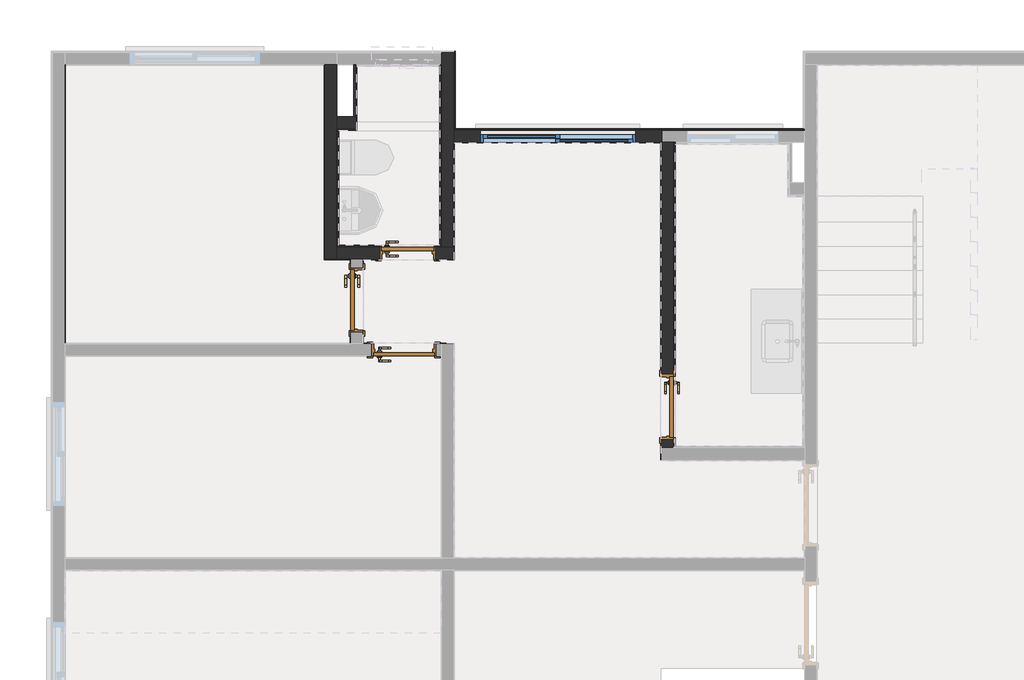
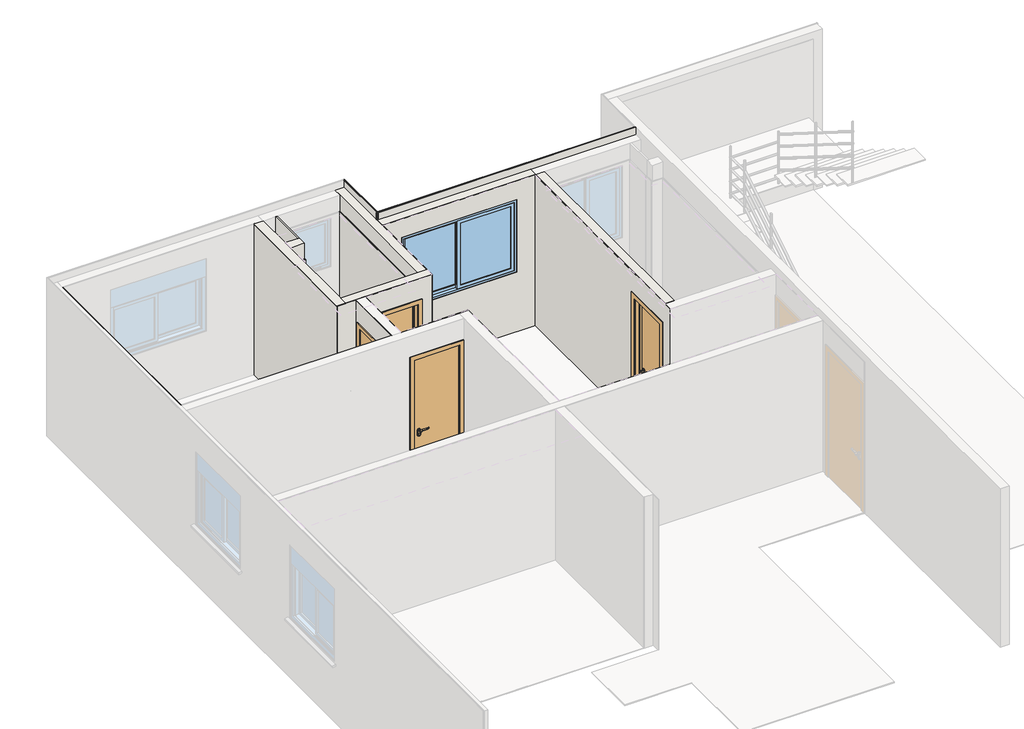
# One storey, part 5 of 11: 27 walls, 4 doors, 1 window.
"""IFC4 building model written with IfcOpenShell, lengths in millimetres."""

from ifc_helpers import new_model, si_unit, frame, origin, origin_with_axes, place, context, project, spatial, polyline, outline, extrude, faceted_brep, transform, mapped, element, save
from components import porta_de_madeira_interna_60_x_210_porta_de_madeira_interna_6d4bee1b, porta_de_madeira_interna_70_x_210_porta_de_madeira_interna_d0067c94, porta_de_madeira_interna_70_x_210_porta_de_madeira_interna_f307109d, window_180x120_e659ab7e

model = new_model("IFC4")

# Units and contexts
model_context = context("Model", 3, world=origin())
ifc_project = project(units=[si_unit("LENGTHUNIT", "METRE", prefix="MILLI")], contexts=[model_context])

# Site, building, storey
site = spatial("IfcSite", under=ifc_project)
building = spatial("IfcBuilding", under=site)
storey = spatial("IfcBuildingStorey", under=building, Name="Térreo", Elevation=0.0)

# Doors
placement = place(None, origin())
porta_de_madeira_interna_60_x_210_porta_de_madeira_interna_shape = porta_de_madeira_interna_60_x_210_porta_de_madeira_interna_6d4bee1b(model_context)
element("IfcDoor", 1, ObjectType="Porta de Madeira Interna 60 x 210 : Porta de Madeira Interna 60 x 210", at=placement, inside=storey, context=model_context, shape_type="MappedRepresentation", body=[
    mapped(porta_de_madeira_interna_60_x_210_porta_de_madeira_interna_shape, transform((4137.9990083, 10003.1988664, 0.0), x_axis=(1.0, 0.0, 0.0), y_axis=(0.0, 1.0, 0.0), z_axis=(0.0, 0.0, 1.0))),
])
porta_de_madeira_interna_70_x_210_porta_de_madeira_interna_shape = porta_de_madeira_interna_70_x_210_porta_de_madeira_interna_d0067c94(model_context)
element("IfcDoor", 2, ObjectType="Porta de Madeira Interna 70 x 210 : Porta de Madeira Interna 70 x 210", at=placement, inside=storey, context=model_context, shape_type="MappedRepresentation", body=[
    mapped(porta_de_madeira_interna_70_x_210_porta_de_madeira_interna_shape, transform((7146.1736861, 8221.3603139, 0.0), x_axis=(0.0, -1.0, 0.0), y_axis=(1.0, 0.0, 0.0), z_axis=(0.0, 0.0, 1.0))),
])
porta_de_madeira_interna_70_x_210_porta_de_madeira_interna_2_shape = porta_de_madeira_interna_70_x_210_porta_de_madeira_interna_f307109d(model_context)
element("IfcDoor", 3, ObjectType="Porta de Madeira Interna 70 x 210 : Porta de Madeira Interna 70 x 210", at=placement, inside=storey, context=model_context, shape_type="MappedRepresentation", body=[
    mapped(porta_de_madeira_interna_70_x_210_porta_de_madeira_interna_2_shape, transform((3546.8230641, 9457.0248023, 0.0), x_axis=(0.0, -1.0, 0.0), y_axis=(1.0, 0.0, 0.0), z_axis=(0.0, 0.0, 1.0))),
])
element("IfcDoor", 4, ObjectType="Porta de Madeira Interna 70 x 210 : Porta de Madeira Interna 70 x 210", at=placement, inside=storey, context=model_context, shape_type="MappedRepresentation", body=[
    mapped(porta_de_madeira_interna_70_x_210_porta_de_madeira_interna_2_shape, transform((4092.999908, 8876.8494803, 0.0), x_axis=(1.0, 0.0, 0.0), y_axis=(0.0, 1.0, 0.0), z_axis=(0.0, 0.0, 1.0))),
])

# Walls
element("IfcWall", 5, ObjectType="Mureta box", at=placement, inside=storey, context=model_context, shape_type="SweptSolid", body=[
    extrude(outline(polyline([(3529.99398, 11505.0235306), (4509.99398, 11505.0235306), (4509.99398, 11495.0235306), (3529.99398, 11495.0235306), (3529.99398, 11505.0235306)])), origin_with_axes(), (0.0, 0.0, 1.0), 90.0),
    extrude(outline(polyline([(4509.99398, 11425.0235306), (3529.99398, 11425.0235306), (3529.99398, 11435.0235306), (4509.99398, 11435.0235306), (4509.99398, 11425.0235306)])), origin_with_axes(), (0.0, 0.0, 1.0), 90.0),
    extrude(outline(polyline([(3529.99398, 11435.0235306), (3529.99398, 11495.0235306), (4509.99398, 11495.0235306), (4509.99398, 11435.0235306), (3529.99398, 11435.0235306)])), origin_with_axes(), (0.0, 0.0, 1.0), 90.0),
    extrude(outline(polyline([(3529.99398, 11505.0235306), (4509.99398, 11505.0235306), (4509.99398, 11495.0235306), (3529.99398, 11495.0235306), (3529.99398, 11505.0235306)])), origin_with_axes(), (0.0, 0.0, 1.0), 90.0),
    extrude(outline(polyline([(4509.99398, 11425.0235306), (3529.99398, 11425.0235306), (3529.99398, 11435.0235306), (4509.99398, 11435.0235306), (4509.99398, 11425.0235306)])), origin_with_axes(), (0.0, 0.0, 1.0), 90.0),
    extrude(outline(polyline([(3529.99398, 11435.0235306), (3529.99398, 11495.0235306), (4509.99398, 11495.0235306), (4509.99398, 11435.0235306), (3529.99398, 11435.0235306)])), origin_with_axes(), (0.0, 0.0, 1.0), 90.0),
])
element("IfcWall", 6, ObjectType="Alvenaria Estrutural", at=placement, inside=storey, context=model_context, shape_type="Brep", body=[
    faceted_brep([(3319.9977061, 12180.0252435, 0.0), (3319.9977061, 12180.0252435, 2510.0), (3319.9977061, 11580.0235306, 2510.0), (3319.9977061, 11440.0235306, 2510.0), (3319.9977061, 10070.0238664, 2510.0), (3319.9977061, 9930.025593, 2510.0), (3319.9977061, 9930.025593, 0.0), (3319.9977061, 10070.0238664, 0.0), (3319.9977061, 10090.0238664, 0.0), (3319.9977061, 11420.0235306, 0.0), (3319.9977061, 11440.0235306, 0.0), (3319.9977061, 11580.0235306, 0.0), (3179.9977061, 12174.0253822, 0.0), (3179.9977061, 12180.0252435, 0.0), (3179.9977061, 9930.025593, 0.0), (3179.9977061, 9930.025593, 2510.0), (3179.9977061, 12174.0253822, 2510.0), (3179.9977061, 12180.0252435, 2510.0)], [[[0, 1, 2, 3, 4, 5, 6, 7, 8, 9, 10, 11]], [[12, 13, 0, 11, 10, 9, 8, 7, 6, 14]], [[15, 14, 6, 5]], [[16, 15, 5, 4, 3, 2, 1, 17]], [[13, 12, 14, 15, 16, 17]], [[13, 17, 1, 0]]]),
    faceted_brep([(3179.9977061, 12180.0252435, 0.0), (3179.9977061, 12174.0253822, 0.0), (3179.9977061, 9930.025593, 0.0), (3179.9977061, 9930.025593, 2510.0), (3179.9977061, 12174.0253822, 2510.0), (3179.9977061, 12180.0252435, 2510.0), (3319.9977061, 12180.0252435, 0.0), (3319.9977061, 12180.0252435, 2510.0), (3319.9977061, 11580.0235306, 2510.0), (3319.9977061, 11440.0235306, 2510.0), (3319.9977061, 10070.0238664, 2510.0), (3319.9977061, 9930.025593, 2510.0), (3319.9977061, 9930.025593, 0.0), (3319.9977061, 10070.0238664, 0.0), (3319.9977061, 10090.0238664, 0.0), (3319.9977061, 11420.0235306, 0.0), (3319.9977061, 11440.0235306, 0.0), (3319.9977061, 11580.0235306, 0.0)], [[[0, 1, 2, 3, 4, 5]], [[6, 7, 8, 9, 10, 11, 12, 13, 14, 15, 16, 17]], [[1, 0, 6, 17, 16, 15, 14, 13, 12, 2]], [[3, 2, 12, 11]], [[4, 3, 11, 10, 9, 8, 7, 5]], [[0, 5, 7, 6]]]),
])
element("IfcWall", 7, ObjectType="Alvenaria Estrutural", at=placement, inside=storey, context=model_context, shape_type="Brep", body=[
    faceted_brep([(3319.9977061, 11580.0235306, 0.0), (3319.9977061, 11580.0235306, 2510.0), (3516.99398, 11580.0235306, 2510.0), (3539.99398, 11580.0235306, 2510.0), (3539.99398, 11580.0235306, 0.0), (3516.99398, 11580.0235306, 0.0), (3539.99398, 11440.0235306, 0.0), (3319.9977061, 11440.0235306, 0.0), (3319.9977061, 11440.0235306, 2510.0), (3539.99398, 11440.0235306, 2510.0)], [[[0, 1, 2, 3, 4, 5]], [[6, 7, 0, 5, 4]], [[8, 9, 3, 2, 1]], [[7, 6, 9, 8]], [[9, 6, 4, 3]], [[7, 8, 1, 0]]]),
    faceted_brep([(3319.9977061, 11440.0235306, 0.0), (3539.99398, 11440.0235306, 0.0), (3539.99398, 11440.0235306, 2510.0), (3319.9977061, 11440.0235306, 2510.0), (3319.9977061, 11580.0235306, 0.0), (3319.9977061, 11580.0235306, 2510.0), (3516.99398, 11580.0235306, 2510.0), (3539.99398, 11580.0235306, 2510.0), (3539.99398, 11580.0235306, 0.0), (3516.99398, 11580.0235306, 0.0)], [[[0, 1, 2, 3]], [[4, 5, 6, 7, 8, 9]], [[1, 0, 4, 9, 8]], [[3, 2, 7, 6, 5]], [[2, 1, 8, 7]], [[0, 3, 5, 4]]]),
])
element("IfcWall", 8, ObjectType="Alvenaria Estrutural", at=placement, inside=storey, context=model_context, shape_type="Brep", body=[
    faceted_brep([(3479.9980641, 9930.0238664, 0.0), (3319.9977061, 9930.0238664, 0.0), (3319.9977061, 10070.0238664, 0.0), (3812.9990083, 10070.0238664, 0.0), (3812.9990083, 9930.0238664, 0.0), (3625.9980641, 9930.0238664, 0.0), (3619.9980641, 9930.0238664, 0.0), (3625.9980641, 9930.0238664, 2510.0), (4669.9986472, 9930.0238664, 2510.0), (4669.9986472, 10070.0238664, 2510.0), (4529.9986472, 10070.0238664, 2510.0), (3319.9977061, 10070.0238664, 2510.0), (3319.9977061, 9930.0238664, 2510.0), (3479.9980641, 9930.0238664, 2510.0), (3619.9980641, 9930.0238664, 2510.0), (4462.9990083, 9930.0238664, 0.0), (4462.9990083, 9930.0238664, 2125.0), (4462.9990083, 10070.0238664, 2125.0), (4462.9990083, 10070.0238664, 0.0), (3812.9990083, 9930.0238664, 2125.0), (3812.9990083, 10070.0238664, 2125.0), (4669.9986472, 9930.0238664, 0.0), (4529.9986472, 10070.0238664, 0.0), (4669.9986472, 10070.0238664, 0.0), (3319.9977061, 10070.0238664, 2250.0)], [[[0, 1, 2, 3, 4, 5, 6]], [[7, 8, 9, 10, 11, 12, 13, 14]], [[15, 16, 17, 18]], [[16, 19, 20, 17]], [[19, 4, 3, 20]], [[21, 15, 18, 22, 23]], [[8, 7, 14, 13, 12, 1, 0, 6, 5, 4, 19, 16, 15, 21]], [[11, 10, 9, 23, 22, 18, 17, 20, 3, 2, 24]], [[8, 21, 23, 9]], [[1, 12, 11, 24, 2]]]),
    faceted_brep([(4669.9986472, 9930.0238664, 2510.0), (3625.9980641, 9930.0238664, 2510.0), (3619.9980641, 9930.0238664, 2510.0), (3479.9980641, 9930.0238664, 2510.0), (3319.9977061, 9930.0238664, 2510.0), (3319.9977061, 9930.0238664, 0.0), (3479.9980641, 9930.0238664, 0.0), (3619.9980641, 9930.0238664, 0.0), (3625.9980641, 9930.0238664, 0.0), (3812.9990083, 9930.0238664, 0.0), (3812.9990083, 9930.0238664, 2125.0), (4462.9990083, 9930.0238664, 2125.0), (4462.9990083, 9930.0238664, 0.0), (4669.9986472, 9930.0238664, 0.0), (3319.9977061, 10070.0238664, 2510.0), (4529.9986472, 10070.0238664, 2510.0), (4669.9986472, 10070.0238664, 2510.0), (4669.9986472, 10070.0238664, 0.0), (4529.9986472, 10070.0238664, 0.0), (4462.9990083, 10070.0238664, 0.0), (4462.9990083, 10070.0238664, 2125.0), (3812.9990083, 10070.0238664, 2125.0), (3812.9990083, 10070.0238664, 0.0), (3319.9977061, 10070.0238664, 0.0), (3319.9977061, 10070.0238664, 2250.0)], [[[0, 1, 2, 3, 4, 5, 6, 7, 8, 9, 10, 11, 12, 13]], [[14, 15, 16, 17, 18, 19, 20, 21, 22, 23, 24]], [[6, 5, 23, 22, 9, 8, 7]], [[1, 0, 16, 15, 14, 4, 3, 2]], [[12, 11, 20, 19]], [[11, 10, 21, 20]], [[10, 9, 22, 21]], [[0, 13, 17, 16]], [[5, 4, 14, 24, 23]], [[13, 12, 19, 18, 17]]]),
])
element("IfcWall", 9, ObjectType="Alvenaria Estrutural", at=placement, inside=storey, context=model_context, shape_type="Brep", body=[
    faceted_brep([(4529.9986472, 12180.025593, 0.0), (4529.9986472, 12320.025593, 0.0), (4669.9986472, 12320.025593, 0.0), (4669.9986472, 11436.0223004, 0.0), (4669.9986472, 11420.0223004, 0.0), (4669.9986472, 11280.0223004, 0.0), (4669.9986472, 11274.0223004, 0.0), (4669.9986472, 10070.0238664, 0.0), (4529.9986472, 10070.0238664, 0.0), (4529.9986472, 10090.0238664, 0.0), (4529.9986472, 12180.025593, 2510.0), (4529.9986472, 10070.0238664, 2510.0), (4669.9986472, 10070.0238664, 2510.0), (4669.9986472, 11274.0223004, 2510.0), (4669.9986472, 11280.0223004, 2510.0), (4669.9986472, 11420.0223004, 2510.0), (4669.9986472, 12320.025593, 2510.0), (4529.9986472, 12320.025593, 2510.0), (4529.9986472, 10070.0238664, 2250.0)], [[[0, 1, 2, 3, 4, 5, 6, 7, 8, 9]], [[10, 11, 12, 13, 14, 15, 16, 17]], [[1, 0, 9, 8, 18, 11, 10, 17]], [[2, 16, 15, 14, 13, 12, 7, 6, 5, 4, 3]], [[1, 17, 16, 2]], [[18, 8, 7, 12, 11]]]),
    faceted_brep([(4529.9986472, 12320.025593, 0.0), (4529.9986472, 12180.025593, 0.0), (4529.9986472, 10090.0238664, 0.0), (4529.9986472, 10070.0238664, 0.0), (4529.9986472, 10070.0238664, 2250.0), (4529.9986472, 10070.0238664, 2510.0), (4529.9986472, 12180.025593, 2510.0), (4529.9986472, 12320.025593, 2510.0), (4669.9986472, 12320.025593, 0.0), (4669.9986472, 12320.025593, 2510.0), (4669.9986472, 11420.0223004, 2510.0), (4669.9986472, 11280.0223004, 2510.0), (4669.9986472, 11274.0223004, 2510.0), (4669.9986472, 10070.0238664, 2510.0), (4669.9986472, 10070.0238664, 0.0), (4669.9986472, 11274.0223004, 0.0), (4669.9986472, 11280.0223004, 0.0), (4669.9986472, 11420.0223004, 0.0), (4669.9986472, 11436.0223004, 0.0)], [[[0, 1, 2, 3, 4, 5, 6, 7]], [[8, 9, 10, 11, 12, 13, 14, 15, 16, 17, 18]], [[1, 0, 8, 18, 17, 16, 15, 14, 3, 2]], [[6, 5, 13, 12, 11, 10, 9, 7]], [[0, 7, 9, 8]], [[4, 3, 14, 13, 5]]]),
])
element("IfcWall", 10, ObjectType="Alvenaria Estrutural", at=placement, inside=storey, context=model_context, shape_type="Brep", body=[
    faceted_brep([(4675.9990083, 11280.0223004, 0.0), (4669.9990083, 11280.0223004, 0.0), (4669.9990083, 11420.0223004, 0.0), (4685.9976538, 11420.0223004, 0.0), (7079.9990083, 11420.0223004, 0.0), (7079.9990083, 11280.0223004, 0.0), (7072.9986861, 11280.0223004, 0.0), (7066.9986861, 11280.0223004, 0.0), (7079.9990083, 11280.0223004, 2510.0), (7079.9990083, 11420.0223004, 2510.0), (7072.9986861, 11280.0223004, 2510.0), (4669.9990083, 11420.0223004, 2510.0), (4669.9990083, 11280.0223004, 2510.0), (4675.9990083, 11280.0223004, 2510.0), (7066.9986861, 11280.0223004, 2510.0), (6774.99925, 11280.0223004, 1000.0), (6774.99925, 11280.0223004, 2200.0), (6774.99925, 11420.0223004, 2200.0), (6774.99925, 11420.0223004, 1000.0), (6774.99925, 11322.5223004, 1000.0), (4974.99925, 11280.0223004, 2200.0), (4974.99925, 11420.0223004, 2200.0), (4974.99925, 11280.0223004, 1000.0), (4974.99925, 11322.5223004, 1000.0), (4974.99925, 11420.0223004, 1000.0), (4924.99925, 11420.0223004, 951.3083694), (4924.99925, 11420.0223004, 1000.0), (4924.99925, 11322.5223004, 1000.0), (4924.99925, 11322.5223004, 972.0326341), (6824.99925, 11420.0223004, 1000.0), (6824.99925, 11420.0223004, 951.3083694), (6824.99925, 11322.5223004, 972.0326341), (6824.99925, 11322.5223004, 1000.0)], [[[0, 1, 2, 3, 4, 5, 6, 7]], [[8, 5, 4, 9]], [[10, 8, 9, 11, 12, 13, 14]], [[1, 12, 11, 2]], [[15, 16, 17, 18, 19]], [[16, 20, 21, 17]], [[20, 22, 23, 24, 21]], [[22, 15, 19, 23]], [[25, 26, 27, 28]], [[29, 30, 31, 32]], [[23, 19, 32, 31, 28, 27]], [[26, 24, 23, 27]], [[30, 25, 28, 31]], [[18, 29, 32, 19]], [[4, 3, 2, 11, 9], [18, 17, 21, 24, 26, 25, 30, 29]], [[1, 0, 7, 6, 5, 8, 10, 14, 13, 12], [16, 15, 22, 20]]]),
    faceted_brep([(4669.9990083, 11280.0223004, 0.0), (4675.9990083, 11280.0223004, 0.0), (7066.9986861, 11280.0223004, 0.0), (7072.9986861, 11280.0223004, 0.0), (7079.9990083, 11280.0223004, 0.0), (7079.9990083, 11280.0223004, 2510.0), (7072.9986861, 11280.0223004, 2510.0), (7066.9986861, 11280.0223004, 2510.0), (4675.9990083, 11280.0223004, 2510.0), (4669.9990083, 11280.0223004, 2510.0), (6774.99925, 11280.0223004, 2200.0), (6774.99925, 11280.0223004, 1000.0), (4974.99925, 11280.0223004, 1000.0), (4974.99925, 11280.0223004, 2200.0), (7079.9990083, 11420.0223004, 0.0), (4685.9976538, 11420.0223004, 0.0), (4669.9990083, 11420.0223004, 0.0), (4669.9990083, 11420.0223004, 2510.0), (7079.9990083, 11420.0223004, 2510.0), (6774.99925, 11420.0223004, 1000.0), (6774.99925, 11420.0223004, 2200.0), (4974.99925, 11420.0223004, 2200.0), (4974.99925, 11420.0223004, 1000.0), (4924.99925, 11420.0223004, 1000.0), (4924.99925, 11420.0223004, 951.3083694), (6824.99925, 11420.0223004, 951.3083694), (6824.99925, 11420.0223004, 1000.0), (6774.99925, 11322.5223004, 1000.0), (4974.99925, 11322.5223004, 1000.0), (4924.99925, 11322.5223004, 1000.0), (4924.99925, 11322.5223004, 972.0326341), (6824.99925, 11322.5223004, 972.0326341), (6824.99925, 11322.5223004, 1000.0)], [[[0, 1, 2, 3, 4, 5, 6, 7, 8, 9], [10, 11, 12, 13]], [[14, 15, 16, 17, 18], [19, 20, 21, 22, 23, 24, 25, 26]], [[1, 0, 16, 15, 14, 4, 3, 2]], [[5, 4, 14, 18]], [[6, 5, 18, 17, 9, 8, 7]], [[0, 9, 17, 16]], [[11, 10, 20, 19, 27]], [[10, 13, 21, 20]], [[13, 12, 28, 22, 21]], [[12, 11, 27, 28]], [[24, 23, 29, 30]], [[26, 25, 31, 32]], [[28, 27, 32, 31, 30, 29]], [[23, 22, 28, 29]], [[25, 24, 30, 31]], [[19, 26, 32, 27]]]),
])
element("IfcWall", 11, ObjectType="Alvenaria Estrutural", at=placement, inside=storey, context=model_context, shape_type="Brep", body=[
    faceted_brep([(7072.9986861, 7746.3603139, 2510.0), (7072.9986861, 11274.0223004, 2510.0), (7072.9986861, 11280.0223004, 2510.0), (7072.9986861, 11280.0223004, 0.0), (7072.9986861, 11274.0223004, 0.0), (7072.9986861, 8596.3603139, 0.0), (7072.9986861, 8596.3603139, 2125.0), (7072.9986861, 7846.3603139, 2125.0), (7072.9986861, 7846.3603139, 0.0), (7072.9986861, 7746.3603139, 0.0), (7212.9986861, 11280.0223004, 2510.0), (7212.9986861, 7746.3603139, 2510.0), (7212.9986861, 7746.3603139, 2250.0), (7212.9986861, 7746.3603139, 0.0), (7212.9986861, 7766.3603139, 0.0), (7212.9986861, 7846.3603139, 0.0), (7212.9986861, 7846.3603139, 2125.0), (7212.9986861, 8596.3603139, 2125.0), (7212.9986861, 8596.3603139, 0.0), (7212.9986861, 11260.0223004, 0.0), (7212.9986861, 11280.0223004, 0.0), (7212.9986861, 11280.0223004, 2250.0), (7079.9990083, 11280.0223004, 0.0), (7079.9990083, 11280.0223004, 2510.0)], [[[0, 1, 2, 3, 4, 5, 6, 7, 8, 9]], [[10, 11, 12, 13, 14, 15, 16, 17, 18, 19, 20, 21]], [[4, 3, 22, 20, 19, 18, 5]], [[1, 0, 11, 10, 23, 2]], [[8, 7, 16, 15]], [[7, 6, 17, 16]], [[6, 5, 18, 17]], [[0, 9, 13, 12, 11]], [[3, 2, 23, 10, 21, 20, 22]], [[9, 8, 15, 14, 13]]]),
])
element("IfcWall", 12, ObjectType="Azulejo", at=placement, inside=storey, context=model_context, shape_type="SweptSolid", body=[
    extrude(outline(polyline([(11280.0223004, 0.0), (8596.3603139, 0.0), (8596.3603139, 2125.0), (7846.3603139, 2125.0), (7846.3603139, 0.0), (7746.3603139, 0.0), (7746.3603139, 2250.0), (11280.0223004, 2250.0), (11280.0223004, 0.0)])), frame((7223.0017324, 0.0, 0.0), z_axis=(1.0, 0.0, 0.0), x_axis=(0.0, 1.0, 0.0)), (0.0, 0.0, 1.0), 10.0),
    extrude(outline(polyline([(7746.3603139, 2250.0), (11280.0223004, 2250.0), (11280.0223004, 0.0), (8596.3603139, 0.0), (8596.3603139, 2125.0), (7846.3603139, 2125.0), (7846.3603139, 0.0), (7746.3603139, 0.0), (7746.3603139, 2250.0)])), frame((7213.0017324, 0.0, 0.0), z_axis=(1.0, 0.0, 0.0), x_axis=(0.0, 1.0, 0.0)), (0.0, 0.0, 1.0), 10.0),
])
element("IfcWall", 13, ObjectType="Azulejo", at=placement, inside=storey, context=model_context, shape_type="SolidModel", body=[
    faceted_brep([(3339.9976538, 10090.0238664, 0.0), (3812.9990083, 10090.0238664, 0.0), (3812.9990083, 10080.0238664, 0.0), (3329.9976538, 10080.0238664, 0.0), (3329.9976538, 10090.0238664, 0.0), (4509.9990083, 10090.0238664, 2250.0), (3339.9976538, 10090.0238664, 2250.0), (3329.9976538, 10090.0238664, 2250.0), (3329.9976538, 10080.0238664, 2250.0), (4519.9990083, 10080.0238664, 2250.0), (4519.9990083, 10090.0238664, 2250.0), (4462.9990083, 10090.0238664, 2125.0), (4462.9990083, 10090.0238664, 0.0), (4462.9990083, 10080.0238664, 0.0), (4462.9990083, 10080.0238664, 2125.0), (3812.9990083, 10080.0238664, 2125.0), (3812.9990083, 10090.0238664, 2125.0), (4509.9990083, 10090.0238664, 0.0), (4519.9990083, 10090.0238664, 0.0), (4519.9990083, 10080.0238664, 0.0)], [[[0, 1, 2, 3, 4]], [[5, 6, 7, 8, 9, 10]], [[11, 12, 13, 14]], [[11, 14, 15, 16]], [[2, 1, 16, 15]], [[13, 12, 17, 18, 19]], [[14, 13, 19, 9, 8, 3, 2, 15]], [[1, 0, 4, 7, 6, 5, 10, 18, 17, 12, 11, 16]], [[4, 3, 8, 7]], [[10, 9, 19, 18]]]),
    extrude(outline(polyline([(2250.0, 4529.9986472), (2250.0, 3319.9977061), (0.0, 3319.9977061), (0.0, 3812.9990083), (2125.0, 3812.9990083), (2125.0, 4462.9990083), (0.0, 4462.9990083), (0.0, 4529.9986472), (2250.0, 4529.9986472)])), frame((0.0, 10070.0238664, 0.0), z_axis=(0.0, 1.0, 0.0), x_axis=(0.0, 0.0, 1.0)), (0.0, 0.0, 1.0), 10.0),
])
element("IfcWall", 14, ObjectType="Azulejo", at=placement, inside=storey, context=model_context, shape_type="SolidModel", body=[
    faceted_brep([(4519.9990083, 10090.0238664, 0.0), (4509.9990083, 10090.0238664, 0.0), (4509.9990083, 12160.025593, 0.0), (4509.9990083, 12170.025593, 0.0), (4519.9990083, 12170.025593, 0.0), (4509.9990083, 12160.025593, 2250.0), (4509.9990083, 10090.0238664, 2250.0), (4519.9990083, 10090.0238664, 2250.0), (4519.9990083, 12170.025593, 2250.0), (4509.9990083, 12170.025593, 2250.0)], [[[0, 1, 2, 3, 4]], [[5, 6, 7, 8, 9]], [[1, 0, 7, 6]], [[7, 0, 4, 8]], [[2, 1, 6, 5, 9, 3]], [[4, 3, 9, 8]]]),
    extrude(outline(polyline([(4529.9990083, 12180.025593), (4529.9990083, 10080.0238664), (4519.9990083, 10080.0238664), (4519.9990083, 12180.025593), (4529.9990083, 12180.025593)])), origin_with_axes(), (0.0, 0.0, 1.0), 2250.0),
])
element("IfcWall", 15, ObjectType="Azulejo", at=placement, inside=storey, context=model_context, shape_type="SweptSolid", body=[
    extrude(outline(polyline([(3549.99398, 11580.0235306), (3549.99398, 11430.0235306), (3539.99398, 11430.0235306), (3539.99398, 11580.0235306), (3549.99398, 11580.0235306)])), origin_with_axes(), (0.0, 0.0, 1.0), 2250.0),
    extrude(outline(polyline([(3529.99398, 11440.0235306), (3529.99398, 11580.0235306), (3539.99398, 11580.0235306), (3539.99398, 11440.0235306), (3529.99398, 11440.0235306)])), origin_with_axes(), (0.0, 0.0, 1.0), 2250.0),
])
element("IfcWall", 16, ObjectType="Azulejo", at=placement, inside=storey, context=model_context, shape_type="Brep", body=[
    faceted_brep([(3549.99398, 11430.0235306, 0.0), (3549.99398, 11420.0235306, 0.0), (3339.9976538, 11420.0235306, 0.0), (3329.9976538, 11420.0235306, 0.0), (3329.9976538, 11430.0235306, 0.0), (3339.9976538, 11420.0235306, 2250.0), (3549.99398, 11420.0235306, 2250.0), (3549.99398, 11430.0235306, 2250.0), (3329.9976538, 11430.0235306, 2250.0), (3329.9976538, 11420.0235306, 2250.0)], [[[0, 1, 2, 3, 4]], [[5, 6, 7, 8, 9]], [[1, 0, 7, 6]], [[7, 0, 4, 8]], [[2, 1, 6, 5, 9, 3]], [[4, 3, 9, 8]]]),
    faceted_brep([(3319.9977061, 11430.0235306, 0.0), (3539.99398, 11430.0235306, 0.0), (3539.99398, 11430.0235306, 2250.0), (3319.9977061, 11430.0235306, 2250.0), (3319.9977061, 11440.0235306, 0.0), (3319.9977061, 11440.0235306, 2250.0), (3529.99398, 11440.0235306, 2250.0), (3539.99398, 11440.0235306, 2250.0), (3539.99398, 11440.0235306, 0.0), (3529.99398, 11440.0235306, 0.0)], [[[0, 1, 2, 3]], [[4, 5, 6, 7, 8, 9]], [[9, 8, 1, 0, 4]], [[6, 5, 3, 2, 7]], [[5, 4, 0, 3]], [[8, 7, 2, 1]]]),
])
element("IfcWall", 17, ObjectType="Azulejo", at=placement, inside=storey, context=model_context, shape_type="SweptSolid", body=[
    extrude(outline(polyline([(3339.9976538, 11420.0235306), (3339.9976538, 10090.0238664), (3329.9976538, 10090.0238664), (3329.9976538, 11420.0235306), (3339.9976538, 11420.0235306)])), origin_with_axes(), (0.0, 0.0, 1.0), 2250.0),
    extrude(outline(polyline([(3319.9976538, 10080.0238664), (3319.9976538, 11430.0235306), (3329.9976538, 11430.0235306), (3329.9976538, 10080.0238664), (3319.9976538, 10080.0238664)])), origin_with_axes(), (0.0, 0.0, 1.0), 2250.0),
])
element("IfcWall", 18, ObjectType="Azulejo - Shaft", at=placement, inside=storey, context=model_context, shape_type="SweptSolid", body=[
    extrude(outline(polyline([(3539.99398, 11580.0235306), (3539.99398, 12160.025593), (3549.99398, 12160.025593), (3549.99398, 11580.0235306), (3539.99398, 11580.0235306)])), origin_with_axes(), (0.0, 0.0, 1.0), 2250.0),
])
element("IfcWall", 19, ObjectType="Gesso Liso + Pintura", at=placement, inside=storey, context=model_context, shape_type="SolidModel", body=[
    faceted_brep([(175.9991825, 12174.0253822, 0.0), (175.9991825, 8950.0244803, 0.0), (174.9991825, 8950.0244803, 0.0), (174.9991825, 12175.0253822, 0.0), (175.9991825, 12175.0253822, 0.0), (174.9991825, 8950.0244803, 2510.0), (175.9991825, 8950.0244803, 2510.0), (175.9991825, 12174.0253822, 2510.0), (175.9991825, 12175.0253822, 2510.0), (174.9991825, 12175.0253822, 2510.0)], [[[0, 1, 2, 3, 4]], [[5, 6, 7, 8, 9]], [[2, 1, 6, 5]], [[2, 5, 9, 3]], [[1, 0, 4, 8, 7, 6]], [[4, 3, 9, 8]]]),
    extrude(outline(polyline([(169.9991825, 8950.0244803), (169.9991825, 12180.0252435), (174.9991825, 12180.0252435), (174.9991825, 8950.0244803), (169.9991825, 8950.0244803)])), origin_with_axes(), (0.0, 0.0, 1.0), 2510.0),
])
element("IfcWall", 20, ObjectType="Gesso Liso + Pintura", at=placement, inside=storey, context=model_context, shape_type="SolidModel", body=[
    extrude(outline(polyline([(3173.9976538, 9924.0238664), (3173.9976538, 12174.0253822), (3174.9976538, 12174.0253822), (3174.9976538, 9924.0238664), (3173.9976538, 9924.0238664)])), origin_with_axes(), (0.0, 0.0, 1.0), 2510.0),
    faceted_brep([(3174.9976538, 12175.0253822, 0.0), (3174.9976538, 9925.0238664, 0.0), (3174.9976538, 9925.0238664, 2510.0), (3174.9976538, 12175.0253822, 2510.0), (3179.9976538, 12175.0253822, 0.0), (3179.9976538, 12175.0253822, 2510.0), (3179.9976538, 9930.0238664, 2510.0), (3179.9976538, 9925.0238664, 2510.0), (3179.9976538, 9925.0238664, 0.0), (3179.9976538, 9930.0238664, 0.0)], [[[0, 1, 2, 3]], [[4, 5, 6, 7, 8, 9]], [[9, 8, 1, 0, 4]], [[6, 5, 3, 2, 7]], [[5, 4, 0, 3]], [[8, 7, 2, 1]]]),
])
element("IfcWall", 21, ObjectType="Gesso Liso + Pintura", at=placement, inside=storey, context=model_context, shape_type="SolidModel", body=[
    faceted_brep([(3473.9980641, 9924.0238664, 0.0), (3174.9976538, 9924.0238664, 0.0), (3174.9976538, 9925.0238664, 0.0), (3474.9980641, 9925.0238664, 0.0), (3474.9980641, 9924.0238664, 0.0), (3174.9976538, 9924.0238664, 2510.0), (3473.9980641, 9924.0238664, 2510.0), (3474.9980641, 9924.0238664, 2510.0), (3474.9980641, 9925.0238664, 2510.0), (3174.9976538, 9925.0238664, 2510.0)], [[[0, 1, 2, 3, 4]], [[5, 6, 7, 8, 9]], [[2, 9, 8, 3]], [[1, 0, 4, 7, 6, 5]], [[1, 5, 9, 2]], [[4, 3, 8, 7]]]),
    extrude(outline(polyline([(3179.9976538, 9930.0238664), (3479.9980641, 9930.0238664), (3479.9980641, 9925.0238664), (3179.9976538, 9925.0238664), (3179.9976538, 9930.0238664)])), origin_with_axes(), (0.0, 0.0, 1.0), 2510.0),
])
element("IfcWall", 22, ObjectType="Gesso Liso + Pintura", at=placement, inside=storey, context=model_context, shape_type="SolidModel", body=[
    faceted_brep([(3473.9980641, 9832.0248023, 0.0), (3473.9980641, 9924.0238664, 0.0), (3474.9980641, 9924.0238664, 0.0), (3474.9980641, 9832.0248023, 0.0), (3474.9980641, 9924.0238664, 2510.0), (3473.9980641, 9924.0238664, 2510.0), (3473.9980641, 8956.0244803, 2510.0), (3473.9980641, 8955.0244803, 2510.0), (3474.9980641, 8955.0244803, 2510.0), (3473.9980641, 9082.0248023, 0.0), (3473.9980641, 9082.0248023, 2125.0), (3474.9980641, 9082.0248023, 2125.0), (3474.9980641, 9082.0248023, 0.0), (3473.9980641, 9832.0248023, 2125.0), (3474.9980641, 9832.0248023, 2125.0), (3474.9980641, 8955.0244803, 0.0), (3473.9980641, 8955.0244803, 0.0), (3473.9980641, 8956.0244803, 0.0)], [[[0, 1, 2, 3]], [[4, 5, 6, 7, 8]], [[9, 10, 11, 12]], [[11, 10, 13, 14]], [[0, 3, 14, 13]], [[2, 1, 5, 4]], [[9, 12, 15, 16, 17]], [[3, 2, 4, 8, 15, 12, 11, 14]], [[1, 0, 13, 10, 9, 17, 16, 7, 6, 5]], [[8, 7, 16, 15]]]),
    extrude(outline(polyline([(9925.0238664, 0.0), (9832.0248023, 0.0), (9832.0248023, 2125.0), (9082.0248023, 2125.0), (9082.0248023, 0.0), (8950.0244803, 0.0), (8950.0244803, 2510.0), (9925.0238664, 2510.0), (9925.0238664, 0.0)])), frame((3474.9980641, 0.0, 0.0), z_axis=(1.0, 0.0, 0.0), x_axis=(0.0, 1.0, 0.0)), (0.0, 0.0, 1.0), 5.0),
])
element("IfcWall", 23, ObjectType="Gesso Liso + Pintura", at=placement, inside=storey, context=model_context, shape_type="SolidModel", body=[
    extrude(outline(polyline([(4675.9990083, 11280.0223004), (4675.9990083, 9924.0238664), (4674.9990083, 9924.0238664), (4674.9990083, 11280.0223004), (4675.9990083, 11280.0223004)])), origin_with_axes(), (0.0, 0.0, 1.0), 2510.0),
    faceted_brep([(4674.9990083, 9925.0238664, 0.0), (4674.9990083, 11280.0223004, 0.0), (4674.9990083, 11280.0223004, 2510.0), (4674.9990083, 9925.0238664, 2510.0), (4669.9990083, 11280.0223004, 0.0), (4669.9990083, 9930.0238664, 0.0), (4669.9990083, 9925.0238664, 0.0), (4669.9990083, 9925.0238664, 2510.0), (4669.9990083, 9930.0238664, 2510.0), (4669.9990083, 11280.0223004, 2510.0)], [[[0, 1, 2, 3]], [[4, 5, 6, 7, 8, 9]], [[5, 4, 1, 0, 6]], [[8, 7, 3, 2, 9]], [[4, 9, 2, 1]], [[7, 6, 0, 3]]]),
])
element("IfcWall", 24, ObjectType="Gesso Liso + Pintura", at=placement, inside=storey, context=model_context, shape_type="SweptSolid", body=[
    extrude(outline(polyline([(2510.0, 4674.9990083), (2510.0, 3619.9980641), (0.0, 3619.9980641), (0.0, 3812.9990083), (2125.0, 3812.9990083), (2125.0, 4462.9990083), (0.0, 4462.9990083), (0.0, 4674.9990083), (2510.0, 4674.9990083)])), frame((0.0, 9924.0238664, 0.0), z_axis=(0.0, 1.0, 0.0), x_axis=(0.0, 0.0, 1.0)), (0.0, 0.0, 1.0), 1.0),
    extrude(outline(polyline([(0.0, 4462.9990083), (0.0, 4669.9990083), (2510.0, 4669.9990083), (2510.0, 3619.9980641), (0.0, 3619.9980641), (0.0, 3812.9990083), (2125.0, 3812.9990083), (2125.0, 4462.9990083), (0.0, 4462.9990083)])), frame((0.0, 9925.0238664, 0.0), z_axis=(0.0, 1.0, 0.0), x_axis=(0.0, 0.0, 1.0)), (0.0, 0.0, 1.0), 5.0),
])
element("IfcWall", 25, ObjectType="Gesso Liso + Pintura", at=placement, inside=storey, context=model_context, shape_type="SweptSolid", body=[
    extrude(outline(polyline([(9930.0238664, 0.0), (9832.0248023, 0.0), (9832.0248023, 2125.0), (9082.0248023, 2125.0), (9082.0248023, 0.0), (8950.0244803, 0.0), (8950.0244803, 2510.0), (9930.0238664, 2510.0), (9930.0238664, 0.0)])), frame((3624.9980641, 0.0, 0.0), z_axis=(1.0, 0.0, 0.0), x_axis=(0.0, 1.0, 0.0)), (0.0, 0.0, 1.0), 1.0),
    extrude(outline(polyline([(8950.0244803, 2510.0), (9930.0238664, 2510.0), (9930.0238664, 0.0), (9832.0248023, 0.0), (9832.0248023, 2125.0), (9082.0248023, 2125.0), (9082.0248023, 0.0), (8950.0244803, 0.0), (8950.0244803, 2510.0)])), frame((3619.9980641, 0.0, 0.0), z_axis=(1.0, 0.0, 0.0), x_axis=(0.0, 1.0, 0.0)), (0.0, 0.0, 1.0), 5.0),
])
element("IfcWall", 26, ObjectType="Gesso Liso + Pintura", at=placement, inside=storey, context=model_context, shape_type="SolidModel", body=[
    extrude(outline(polyline([(0.0, 3619.9980641), (0.0, 3717.999908), (2125.0, 3717.999908), (2125.0, 4467.999908), (0.0, 4467.999908), (0.0, 4674.9996867), (2510.0, 4674.9996867), (2510.0, 3619.9980641), (0.0, 3619.9980641)])), frame((0.0, 8955.0244803, 0.0), z_axis=(0.0, 1.0, 0.0), x_axis=(0.0, 0.0, 1.0)), (0.0, 0.0, 1.0), 1.0),
    faceted_brep([(3717.999908, 8955.0244803, 0.0), (3619.9980641, 8955.0244803, 0.0), (3619.9980641, 8955.0244803, 2510.0), (4669.9996867, 8955.0244803, 2510.0), (4669.9996867, 8955.0244803, 0.0), (4467.999908, 8955.0244803, 0.0), (4467.999908, 8955.0244803, 2125.0), (3717.999908, 8955.0244803, 2125.0), (4669.9996867, 8950.0244803, 2510.0), (4529.9996867, 8950.0244803, 2510.0), (3619.9980641, 8950.0244803, 2510.0), (3619.9980641, 8950.0244803, 0.0), (3717.999908, 8950.0244803, 0.0), (3717.999908, 8950.0244803, 2125.0), (4467.999908, 8950.0244803, 2125.0), (4467.999908, 8950.0244803, 0.0), (4529.9996867, 8950.0244803, 0.0), (4669.9996867, 8950.0244803, 0.0)], [[[0, 1, 2, 3, 4, 5, 6, 7]], [[8, 9, 10, 11, 12, 13, 14, 15, 16, 17]], [[12, 11, 1, 0]], [[9, 8, 3, 2, 10]], [[15, 14, 6, 5]], [[14, 13, 7, 6]], [[13, 12, 0, 7]], [[8, 17, 4, 3]], [[11, 10, 2, 1]], [[16, 15, 5, 4, 17]]]),
])
element("IfcWall", 27, ObjectType="Gesso Liso + Pintura", at=placement, inside=storey, context=model_context, shape_type="SolidModel", body=[
    extrude(outline(polyline([(7601.3603139, 2510.0), (11280.0223004, 2510.0), (11280.0223004, 0.0), (8596.3603139, 0.0), (8596.3603139, 2125.0), (7846.3603139, 2125.0), (7846.3603139, 0.0), (7601.3603139, 0.0), (7601.3603139, 2510.0)])), frame((7066.9986861, 0.0, 0.0), z_axis=(1.0, 0.0, 0.0), x_axis=(0.0, 1.0, 0.0)), (0.0, 0.0, 1.0), 1.0),
    faceted_brep([(7067.9986861, 7846.3603139, 0.0), (7067.9986861, 7606.3603139, 0.0), (7067.9986861, 7606.3603139, 2510.0), (7067.9986861, 11280.0223004, 2510.0), (7067.9986861, 11280.0223004, 0.0), (7067.9986861, 8596.3603139, 0.0), (7067.9986861, 8596.3603139, 2125.0), (7067.9986861, 7846.3603139, 2125.0), (7072.9986861, 11280.0223004, 2510.0), (7072.9986861, 7746.3603139, 2510.0), (7072.9986861, 7606.3603139, 2510.0), (7072.9986861, 7606.3603139, 0.0), (7072.9986861, 7746.3603139, 0.0), (7072.9986861, 7846.3603139, 0.0), (7072.9986861, 7846.3603139, 2125.0), (7072.9986861, 8596.3603139, 2125.0), (7072.9986861, 8596.3603139, 0.0), (7072.9986861, 11280.0223004, 0.0)], [[[0, 1, 2, 3, 4, 5, 6, 7]], [[8, 9, 10, 11, 12, 13, 14, 15, 16, 17]], [[12, 11, 1, 0, 13]], [[9, 8, 3, 2, 10]], [[14, 13, 0, 7]], [[15, 14, 7, 6]], [[16, 15, 6, 5]], [[11, 10, 2, 1]], [[8, 17, 4, 3]], [[17, 16, 5, 4]]]),
])
element("IfcWall", 28, ObjectType="Gesso Liso + Pintura", at=placement, inside=storey, context=model_context, shape_type="SweptSolid", body=[
    extrude(outline(polyline([(0.0, 7072.9986861), (2510.0, 7072.9986861), (2510.0, 4669.9986472), (0.0, 4669.9986472), (0.0, 7072.9986861)]), holes=[polyline([(1000.0, 6774.99925), (1000.0, 4974.99925), (2200.0, 4974.99925), (2200.0, 6774.99925), (1000.0, 6774.99925)])]), frame((0.0, 11274.0223004, 0.0), z_axis=(0.0, 1.0, 0.0), x_axis=(0.0, 0.0, 1.0)), (0.0, 0.0, 1.0), 1.0),
    extrude(outline(polyline([(0.0, 4669.9986472), (0.0, 7072.9986861), (2510.0, 7072.9986861), (2510.0, 4669.9986472), (0.0, 4669.9986472)]), holes=[polyline([(2200.0, 6774.99925), (1000.0, 6774.99925), (1000.0, 4974.99925), (2200.0, 4974.99925), (2200.0, 6774.99925)])]), frame((0.0, 11275.0223004, 0.0), z_axis=(0.0, 1.0, 0.0), x_axis=(0.0, 0.0, 1.0)), (0.0, 0.0, 1.0), 5.0),
])
element("IfcWall", 29, ObjectType="Reboco + Pintura Externa", at=placement, inside=storey, context=model_context, shape_type="SolidModel", body=[
    extrude(outline(polyline([(4685.9976538, 12334.9952456), (4685.9976538, 11420.0223004), (4684.9976538, 11420.0223004), (4684.9976538, 12334.9952456), (4685.9976538, 12334.9952456)])), origin_with_axes(), (0.0, 0.0, 1.0), 2630.0),
    faceted_brep([(4674.9976538, 11420.0223004, 0.0), (4674.9976538, 12319.9952456, 0.0), (4674.9976538, 12319.9952456, 2630.0), (4674.9976538, 11420.0223004, 2630.0), (4669.9976538, 11420.0223004, 0.0), (4669.9976538, 12319.9952456, 0.0), (4669.9976538, 12319.9952456, 2630.0), (4669.9976538, 11420.0223004, 2630.0), (4669.9976538, 11420.0223004, 2510.0)], [[[0, 1, 2, 3]], [[4, 5, 1, 0]], [[6, 7, 3, 2]], [[5, 6, 2, 1]], [[8, 4, 0, 3, 7]], [[5, 4, 8, 7, 6]]]),
    extrude(outline(polyline([(4674.9976538, 12324.9952456), (4684.9976538, 12324.9952456), (4684.9976538, 11420.0223004), (4674.9976538, 11420.0223004), (4674.9976538, 12324.9952456)])), origin_with_axes(), (0.0, 0.0, 1.0), 2630.0),
])
element("IfcWall", 30, ObjectType="Reboco + Pintura Externa", at=placement, inside=storey, context=model_context, shape_type="Brep", body=[
    faceted_brep([(6774.99925, 11435.0223004, 1000.0), (6774.99925, 11435.0223004, 2200.0), (6774.99925, 11436.0223004, 2200.0), (6774.99925, 11436.0223004, 1000.0), (4974.99925, 11435.0223004, 1000.0), (4974.99925, 11436.0223004, 1000.0), (4974.99925, 11435.0223004, 2200.0), (4974.99925, 11436.0223004, 2200.0), (8424.99921, 11435.0223004, 1000.0), (8424.99921, 11435.0223004, 2200.0), (8424.99921, 11436.0223004, 2200.0), (8424.99921, 11436.0223004, 1000.0), (7374.99921, 11435.0223004, 1000.0), (7374.99921, 11436.0223004, 1000.0), (7374.99921, 11435.0223004, 2200.0), (7374.99921, 11436.0223004, 2200.0), (4669.9986472, 11435.0223004, 0.0), (4669.9986472, 11436.0223004, 0.0), (8713.9963008, 11436.0223004, 0.0), (8714.9963008, 11436.0223004, 0.0), (8714.9963008, 11435.0223004, 0.0), (4669.9986472, 11435.0223004, 2510.0), (4669.9986472, 11435.0223004, 2630.0), (4669.9986472, 11436.0223004, 2630.0), (4669.9986472, 11436.0223004, 2510.0), (8714.9963008, 11435.0223004, 2510.0), (8714.9963008, 11435.0223004, 2630.0), (8713.9963008, 11436.0223004, 2630.0), (8714.9963008, 11436.0223004, 2630.0), (8714.9963008, 11436.0223004, 2510.0)], [[[0, 1, 2, 3]], [[4, 0, 3, 5]], [[6, 4, 5, 7]], [[1, 6, 7, 2]], [[8, 9, 10, 11]], [[12, 8, 11, 13]], [[14, 12, 13, 15]], [[9, 14, 15, 10]], [[16, 17, 18, 19, 20]], [[16, 21, 22, 23, 24, 17]], [[21, 16, 20, 25, 26, 22], [1, 0, 4, 6], [9, 8, 12, 14]], [[18, 17, 24, 23, 27, 28, 29, 19], [3, 2, 7, 5], [11, 10, 15, 13]], [[25, 20, 19, 29, 28, 26]], [[22, 26, 28, 27, 23]]]),
    faceted_brep([(8729.9963008, 11425.0223004, 0.0), (4669.9986472, 11425.0223004, 0.0), (4669.9986472, 11425.0223004, 2510.0), (4669.9986472, 11425.0223004, 2630.0), (8729.9963008, 11425.0223004, 2630.0), (8729.9963008, 11425.0223004, 2510.0), (8424.99921, 11425.0223004, 1000.0), (8424.99921, 11425.0223004, 2200.0), (7374.99921, 11425.0223004, 2200.0), (7374.99921, 11425.0223004, 1000.0), (6774.99925, 11425.0223004, 1000.0), (6774.99925, 11425.0223004, 2200.0), (4974.99925, 11425.0223004, 2200.0), (4974.99925, 11425.0223004, 1000.0), (6774.99925, 11420.0223004, 1000.0), (6774.99925, 11420.0223004, 2200.0), (4974.99925, 11420.0223004, 1000.0), (4974.99925, 11420.0223004, 2200.0), (8424.99921, 11420.0223004, 1000.0), (8424.99921, 11420.0223004, 2200.0), (7374.99921, 11420.0223004, 1000.0), (7374.99921, 11420.0223004, 2200.0), (8729.9963008, 11420.0223004, 0.0), (7079.9990083, 11420.0223004, 0.0), (4669.9986472, 11420.0223004, 0.0), (8729.9963008, 11420.0223004, 2630.0), (8729.9963008, 11420.0223004, 2510.0), (4669.9986472, 11420.0223004, 2510.0), (4669.9986472, 11420.0223004, 2630.0)], [[[0, 1, 2, 3, 4, 5], [6, 7, 8, 9], [10, 11, 12, 13]], [[11, 10, 14, 15]], [[10, 13, 16, 14]], [[13, 12, 17, 16]], [[12, 11, 15, 17]], [[7, 6, 18, 19]], [[6, 9, 20, 18]], [[9, 8, 21, 20]], [[8, 7, 19, 21]], [[1, 0, 22, 23, 24]], [[0, 5, 4, 25, 26, 22]], [[2, 1, 24, 27, 28, 3]], [[24, 23, 22, 26, 25, 28, 27], [15, 14, 16, 17], [19, 18, 20, 21]], [[4, 3, 28, 25]]]),
    faceted_brep([(4669.9986472, 11425.0223004, 0.0), (8729.9963008, 11425.0223004, 0.0), (8729.9963008, 11425.0223004, 2510.0), (8729.9963008, 11425.0223004, 2630.0), (4669.9986472, 11425.0223004, 2630.0), (4669.9986472, 11425.0223004, 2510.0), (8424.99921, 11425.0223004, 2200.0), (8424.99921, 11425.0223004, 1000.0), (7374.99921, 11425.0223004, 1000.0), (7374.99921, 11425.0223004, 2200.0), (6774.99925, 11425.0223004, 2200.0), (6774.99925, 11425.0223004, 1000.0), (4974.99925, 11425.0223004, 1000.0), (4974.99925, 11425.0223004, 2200.0), (6774.99925, 11435.0223004, 2200.0), (6774.99925, 11435.0223004, 1000.0), (4974.99925, 11435.0223004, 1000.0), (4974.99925, 11435.0223004, 2200.0), (8424.99921, 11435.0223004, 2200.0), (8424.99921, 11435.0223004, 1000.0), (7374.99921, 11435.0223004, 1000.0), (7374.99921, 11435.0223004, 2200.0), (4669.9986472, 11435.0223004, 0.0), (8729.9963008, 11435.0223004, 0.0), (8729.9963008, 11435.0223004, 2510.0), (8729.9963008, 11435.0223004, 2630.0), (4669.9986472, 11435.0223004, 2630.0), (4669.9986472, 11435.0223004, 2510.0)], [[[0, 1, 2, 3, 4, 5], [6, 7, 8, 9], [10, 11, 12, 13]], [[11, 10, 14, 15]], [[12, 11, 15, 16]], [[13, 12, 16, 17]], [[10, 13, 17, 14]], [[7, 6, 18, 19]], [[8, 7, 19, 20]], [[9, 8, 20, 21]], [[6, 9, 21, 18]], [[1, 0, 22, 23]], [[2, 1, 23, 24, 25, 3]], [[0, 5, 4, 26, 27, 22]], [[23, 22, 27, 26, 25, 24], [15, 14, 17, 16], [19, 18, 21, 20]], [[4, 3, 25, 26]]]),
])
element("IfcWall", 31, ObjectType="Shaft Drywall", at=placement, inside=storey, context=model_context, shape_type="Brep", body=[
    faceted_brep([(3539.99398, 11580.0235306, 0.0), (3539.99398, 12160.025593, 0.0), (3539.99398, 12180.025593, 0.0), (3539.99398, 12180.025593, 2250.0), (3539.99398, 12180.025593, 2510.0), (3539.99398, 11580.0235306, 2510.0), (3516.99398, 11580.0235306, 0.0), (3516.99398, 12180.025593, 0.0), (3516.99398, 12180.025593, 2510.0), (3516.99398, 11580.0235306, 2510.0)], [[[0, 1, 2, 3, 4, 5]], [[1, 0, 6, 7, 2]], [[5, 4, 8, 9]], [[6, 9, 8, 7]], [[0, 5, 9, 6]], [[3, 2, 7, 8, 4]]]),
    faceted_brep([(3539.99398, 11580.0235306, 0.0), (3539.99398, 12160.025593, 0.0), (3539.99398, 12180.025593, 0.0), (3539.99398, 12180.025593, 2250.0), (3539.99398, 12180.025593, 2510.0), (3539.99398, 11580.0235306, 2510.0), (3516.99398, 11580.0235306, 0.0), (3516.99398, 11580.0235306, 2510.0), (3516.99398, 12180.025593, 2510.0), (3516.99398, 12180.025593, 0.0)], [[[0, 1, 2, 3, 4, 5]], [[6, 7, 8, 9]], [[1, 0, 6, 9, 2]], [[5, 4, 8, 7]], [[0, 5, 7, 6]], [[3, 2, 9, 8, 4]]]),
])

# Window
window_180x120_shape = window_180x120_e659ab7e(model_context)
element("IfcWindow", 32, ObjectType="Janela de correr - 2 Painéis : 180x120", at=placement, inside=storey, context=model_context, shape_type="MappedRepresentation", body=[
    mapped(window_180x120_shape, transform((5874.99925, 11350.0223004, 350.0), x_axis=(-1.0, 0.0, 0.0), y_axis=(0.0, -1.0, 0.0), z_axis=(0.0, 0.0, 1.0))),
])

save(model, "model.ifc")
